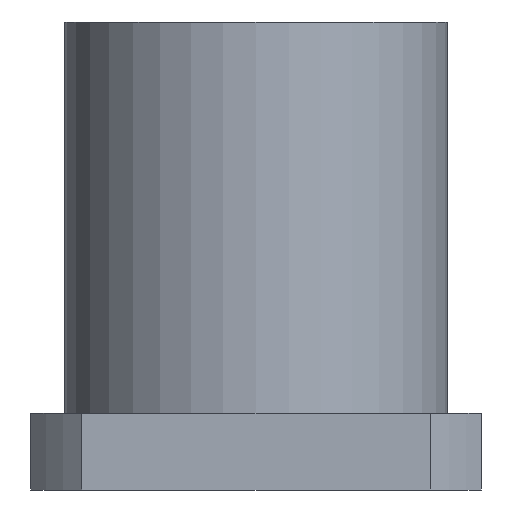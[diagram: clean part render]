
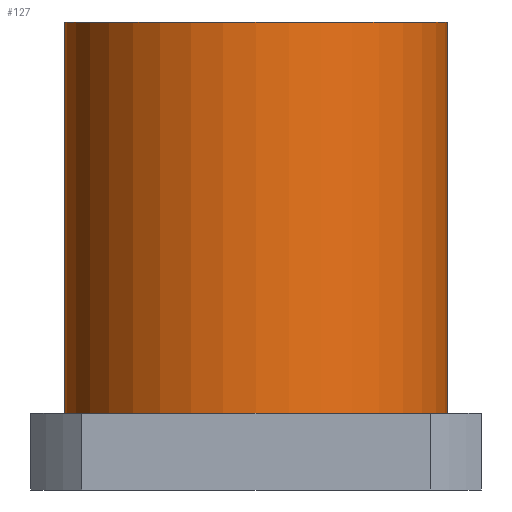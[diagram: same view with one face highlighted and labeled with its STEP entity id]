
A CAD part, front view. The second image highlights one B-rep face of the part: STEP entity #127.
In plain terms, the highlighted cylindrical face has radius 45 mm (diameter 90 mm), a partial arc.
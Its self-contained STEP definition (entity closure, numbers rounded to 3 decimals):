
#86=CARTESIAN_POINT('',(-14.031,3.294,0.0));
#87=DIRECTION('',(0.0,0.0,1.0));
#88=DIRECTION('',(-1.0,0.0,0.0));
#89=AXIS2_PLACEMENT_3D('',#86,#87,#88);
#90=CYLINDRICAL_SURFACE('',#89,45.0);
#91=CARTESIAN_POINT('',(-59.031,3.294,18.0));
#92=VERTEX_POINT('',#91);
#93=CARTESIAN_POINT('',(-59.031,3.294,110.0));
#94=VERTEX_POINT('',#93);
#95=CARTESIAN_POINT('',(-59.031,3.294,18.0));
#96=DIRECTION('',(0.0,0.0,1.0));
#97=VECTOR('',#96,92.0);
#98=LINE('',#95,#97);
#99=EDGE_CURVE('',#92,#94,#98,.T.);
#100=ORIENTED_EDGE('',*,*,#99,.F.);
#101=CARTESIAN_POINT('',(30.969,3.294,18.0));
#102=VERTEX_POINT('',#101);
#103=CARTESIAN_POINT('',(-14.031,3.294,18.0));
#104=DIRECTION('',(0.0,0.0,-1.0));
#105=DIRECTION('',(-1.0,0.0,0.0));
#106=AXIS2_PLACEMENT_3D('',#103,#104,#105);
#107=CIRCLE('',#106,45.0);
#108=EDGE_CURVE('',#102,#92,#107,.T.);
#109=ORIENTED_EDGE('',*,*,#108,.F.);
#110=CARTESIAN_POINT('',(30.969,3.294,110.0));
#111=VERTEX_POINT('',#110);
#112=CARTESIAN_POINT('',(30.969,3.294,110.0));
#113=DIRECTION('',(0.0,0.0,-1.0));
#114=VECTOR('',#113,92.0);
#115=LINE('',#112,#114);
#116=EDGE_CURVE('',#111,#102,#115,.T.);
#117=ORIENTED_EDGE('',*,*,#116,.F.);
#118=CARTESIAN_POINT('',(-14.031,3.294,110.0));
#119=DIRECTION('',(0.0,0.0,-1.0));
#120=DIRECTION('',(-1.0,0.0,0.0));
#121=AXIS2_PLACEMENT_3D('',#118,#119,#120);
#122=CIRCLE('',#121,45.0);
#123=EDGE_CURVE('',#111,#94,#122,.T.);
#124=ORIENTED_EDGE('',*,*,#123,.T.);
#125=EDGE_LOOP('',(#100,#109,#117,#124));
#126=FACE_OUTER_BOUND('',#125,.T.);
#127=ADVANCED_FACE('',(#126),#90,.T.);
